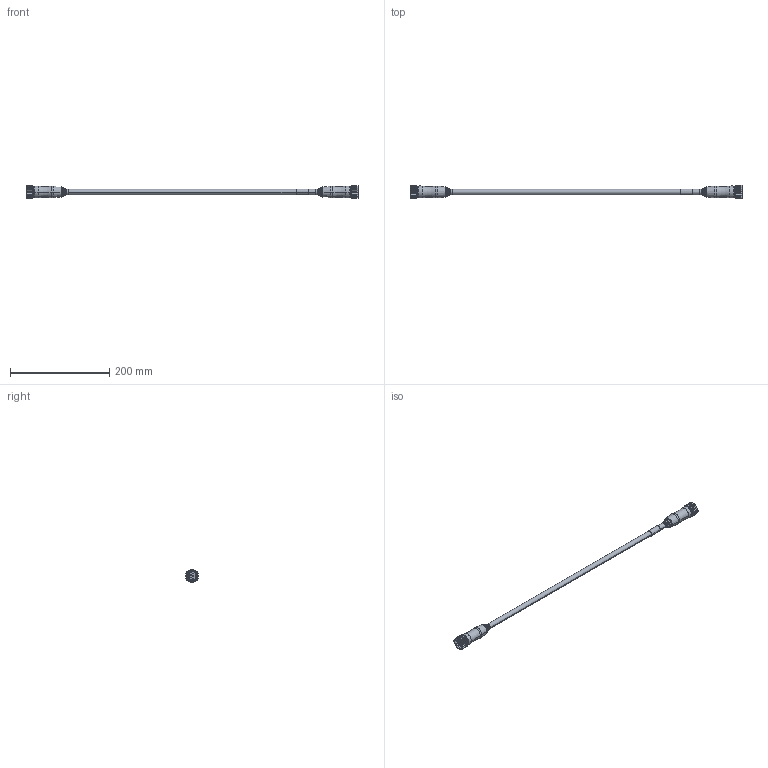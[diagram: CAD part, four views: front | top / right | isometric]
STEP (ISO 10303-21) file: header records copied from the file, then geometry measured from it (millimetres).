
FILE_DESCRIPTION((''),'2;1');
FILE_NAME('889M-F12AHMU-2_ASM','2015-06-15T',('20066374'),('Rockwell Automation'),'PRO/ENGINEER BY PARAMETRIC TECHNOLOGY CORPORATION, 2009140','PRO/ENGINEER BY PARAMETRIC TECHNOLOGY CORPORATION, 2009140','');
FILE_SCHEMA(('CONFIG_CONTROL_DESIGN'));
Length unit declared in the file: millimetre
Products named in the file (3): 889M-FX9AE-2; 889M-UX9AE-2; 889M-F12AHMU-2_ASM
Assembly tree (2 placements, depth 2):
  889M-F12AHMU-2_ASM
    889M-FX9AE-2
    889M-UX9AE-2
Bounding box: 670 x 26.59 x 26.18 mm (x, y, z)
Volume: 102395.1 mm3; surface area: 36405.2 mm2
Topology: 2 solids, 2 shells, 533 faces, 1386 edges, 848 vertices
Faces by surface type: plane 275, cylinder 174, cone 44, sphere 24, torus 16
Entity records: 16386 total; most frequent: CARTESIAN_POINT 3054, DIRECTION 2928, ORIENTED_EDGE 2724, EDGE_CURVE 1362, AXIS2_PLACEMENT_3D 1110, VERTEX_POINT 848, VECTOR 708, LINE 708
